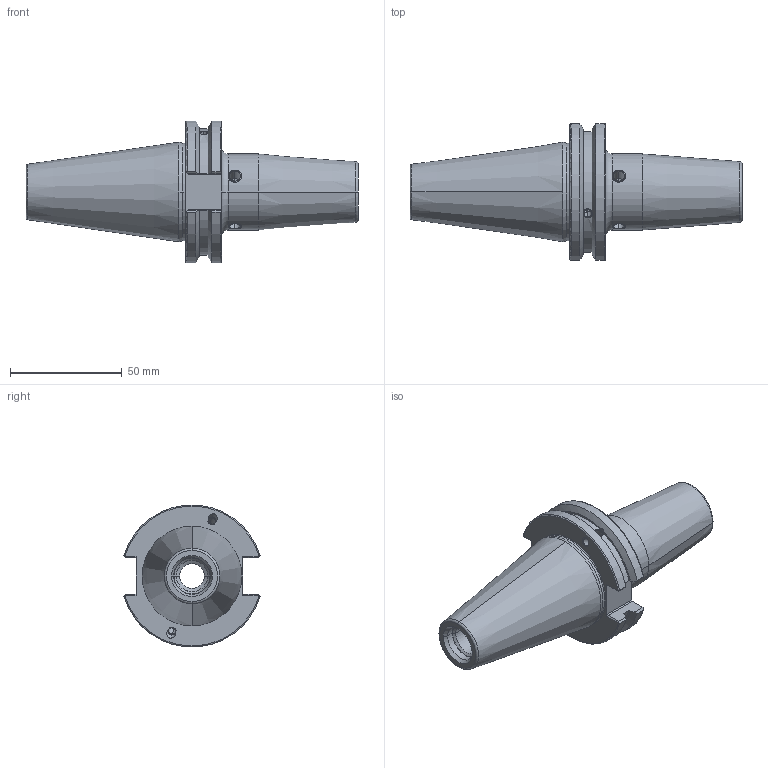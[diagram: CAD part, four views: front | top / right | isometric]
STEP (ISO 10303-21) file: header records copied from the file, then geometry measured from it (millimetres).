
FILE_DESCRIPTION((''),'2;1');
FILE_NAME('CAT40ADB-SFH15_875C-80','2020-09-02T08:28:00',('ssktool'),(''),'CREO PARAMETRIC BY PTC INC, 2018100','CREO PARAMETRIC BY PTC INC, 2018100','');
FILE_SCHEMA(('CONFIG_CONTROL_DESIGN'));
Length unit declared in the file: millimetre
Products named in the file (1): CAT40ADB-SFH15_875C-80
Bounding box: 148.25 x 60.84 x 63.27 mm (x, y, z)
Volume: 134321.7 mm3; surface area: 33636.2 mm2
Topology: 1 solids, 10 shells, 190 faces, 522 edges, 337 vertices
Faces by surface type: cylinder 78, plane 56, cone 34, torus 18, bspline 4
Entity records: 6687 total; most frequent: CARTESIAN_POINT 2029, ORIENTED_EDGE 936, DIRECTION 930, EDGE_CURVE 508, AXIS2_PLACEMENT_3D 373, VERTEX_POINT 337, EDGE_LOOP 221, FACE_OUTER_BOUND 190
